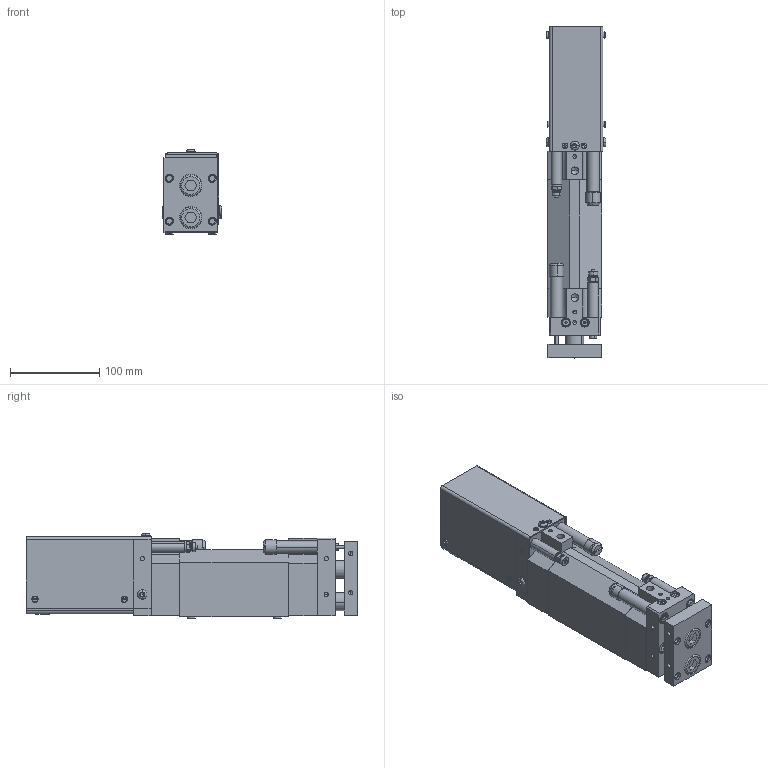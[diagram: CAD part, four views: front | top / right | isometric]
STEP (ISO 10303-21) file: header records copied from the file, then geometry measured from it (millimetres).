
FILE_DESCRIPTION((''),'2;1');
FILE_NAME('V:\CAD\Inventor-Stp\Iam-Ipt-neu\MLE 16 in\stp\01-01-000.stp','2003-10-16T15:40:20',('is'),(''),'Autodesk Inventor (R) 6.0','Autodesk Inventor (R) 6.0','');
FILE_SCHEMA(('CONFIG_CONTROL_DESIGN'));
Length unit declared in the file: millimetre
Products named in the file (3): Baugruppe1; 01-01-000-b; 01-01-000-a
Assembly tree (2 placements, depth 2):
  Baugruppe1
    01-01-000-b
    01-01-000-a
Bounding box: 66.9 x 371.5 x 95.15 mm (x, y, z)
Volume: 1003475.6 mm3; surface area: 341172.7 mm2
Topology: 52 solids, 57 shells, 1584 faces, 3772 edges, 2355 vertices
Faces by surface type: bspline 479, plane 411, cylinder 330, cone 276, torus 80, sphere 8
Entity records: 53498 total; most frequent: CARTESIAN_POINT 17490, DIRECTION 7616, ORIENTED_EDGE 7336, EDGE_CURVE 3668, AXIS2_PLACEMENT_3D 3066, VERTEX_POINT 2355, CIRCLE 1956, EDGE_LOOP 1866
